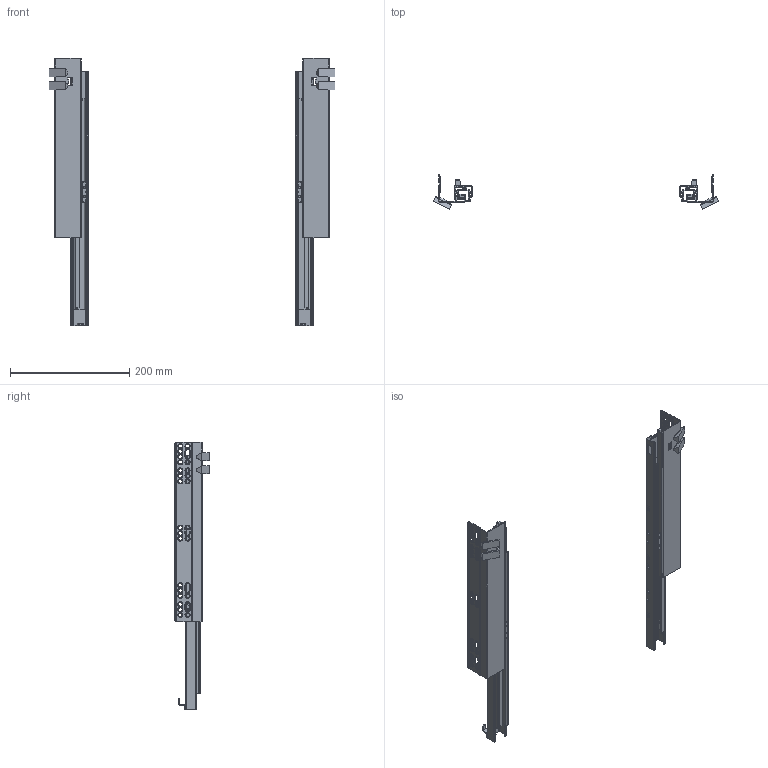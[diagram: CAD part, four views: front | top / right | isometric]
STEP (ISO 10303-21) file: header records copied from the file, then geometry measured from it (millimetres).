
FILE_DESCRIPTION (( 'STEP AP203' ), '1' );
FILE_NAME ('728MCFH(19)-440-TM 客人用图.STEP', '2021-02-24T06:15:17', ( '微软用户' ), ( '微软中国' ), 'SwSTEP 2.0', 'SolidWorks 2014', '' );
FILE_SCHEMA (( 'CONFIG_CONTROL_DESIGN' ));
Length unit declared in the file: millimetre
Products named in the file (17): 镜向728CFH(19)-450 固定轨（右）客人参考用; 728CFH-450-R  中轨（右）客人用图; 镜向728MCFH（16）-440-HDG-R  活动轨（右） 客人用图; 708-1 尾勾（常规三节轨用）; 728-2 活动轨挡位焊片（无把手有把手通用）; 噩砃728 笢寢爾え; 728MCFH(16)-440-HDG-R 活动轨组件（右）客人用图; 镜向728-2 活动轨挡位焊片（无把手有把手通用）; 镜向728CFH-450-ZG-R  中轨组件（右） 客人用图; 镜向708-1 尾勾（常规三节轨用）; 镜向728MCFH(16)-440-HDG-R 活动轨组件（右）客人用图; 镜向728CFH-450-R  中轨（右）客人用图; 728MCFH（16）-440-HDG-R  活动轨（右） 客人用图; 728MCFH(19)-440-TM  客人用图; 728 笢寢爾え; 728CFH-450-ZG-R  中轨组件（右） 客人用图; 728CFH(19)-450 固定轨（右）客人参考用
Assembly tree (16 placements, depth 3):
  728MCFH(19)-440-TM  客人用图
    728CFH(19)-450 固定轨（右）客人参考用
    728MCFH(16)-440-HDG-R 活动轨组件（右）客人用图
      728MCFH（16）-440-HDG-R  活动轨（右） 客人用图
      708-1 尾勾（常规三节轨用）
      728-2 活动轨挡位焊片（无把手有把手通用）
    728CFH-450-ZG-R  中轨组件（右） 客人用图
      728CFH-450-R  中轨（右）客人用图
      728 笢寢爾え
    镜向728CFH(19)-450 固定轨（右）客人参考用
    镜向728MCFH(16)-440-HDG-R 活动轨组件（右）客人用图
      镜向728MCFH（16）-440-HDG-R  活动轨（右） 客人用图
      镜向708-1 尾勾（常规三节轨用）
      镜向728-2 活动轨挡位焊片（无把手有把手通用）
    镜向728CFH-450-ZG-R  中轨组件（右） 客人用图
      镜向728CFH-450-R  中轨（右）客人用图
      噩砃728 笢寢爾え
Bounding box: 478.47 x 57.88 x 447.4 mm (x, y, z)
Volume: 246896.9 mm3; surface area: 350227.3 mm2
Topology: 16 solids, 16 shells, 1724 faces, 4374 edges, 2754 vertices
Faces by surface type: plane 816, cylinder 614, cone 252, bspline 38, torus 4
Entity records: 55667 total; most frequent: CARTESIAN_POINT 11145, DIRECTION 9212, ORIENTED_EDGE 8748, EDGE_CURVE 4374, AXIS2_PLACEMENT_3D 3271, VERTEX_POINT 2754, LINE 2670, VECTOR 2670
